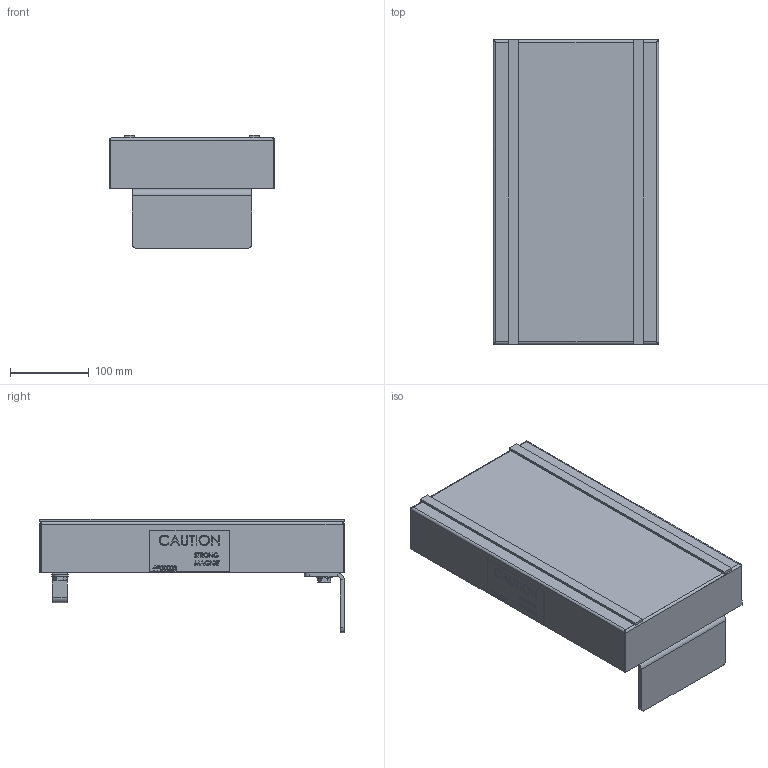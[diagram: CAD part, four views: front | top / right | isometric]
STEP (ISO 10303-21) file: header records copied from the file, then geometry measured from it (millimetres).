
FILE_DESCRIPTION (( 'STEP AP203' ), '1' );
FILE_NAME ('TKF15.STEP', '2017-12-20T12:33:21', ( 'admin' ), ( '' ), 'SwSTEP 2.0', 'SolidWorks 2015', '' );
FILE_SCHEMA (( 'CONFIG_CONTROL_DESIGN' ));
Products named in the file (1): TKF15
Bounding box: 210.82 x 387.6 x 144.15 mm (x, y, z)
Volume: 2912297 mm3; surface area: 775314.4 mm2
Topology: 21 solids, 21 shells, 2362 faces, 5978 edges, 3876 vertices
Faces by surface type: plane 1319, bspline 675, cylinder 184, cone 176, torus 8
Entity records: 111549 total; most frequent: CARTESIAN_POINT 59114, ORIENTED_EDGE 11956, DIRECTION 8368, EDGE_CURVE 5978, LINE 4048, VECTOR 4048, VERTEX_POINT 3876, EDGE_LOOP 2612
